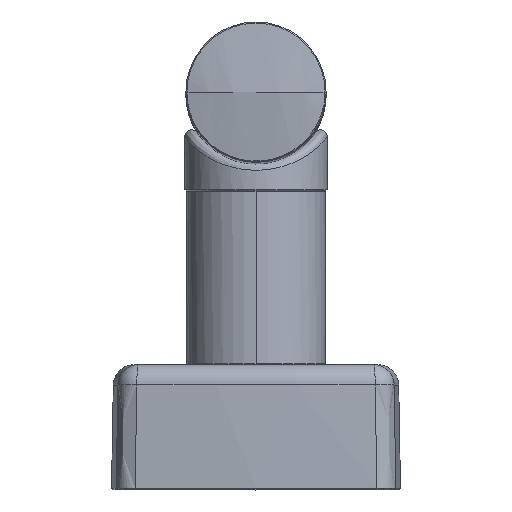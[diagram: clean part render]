
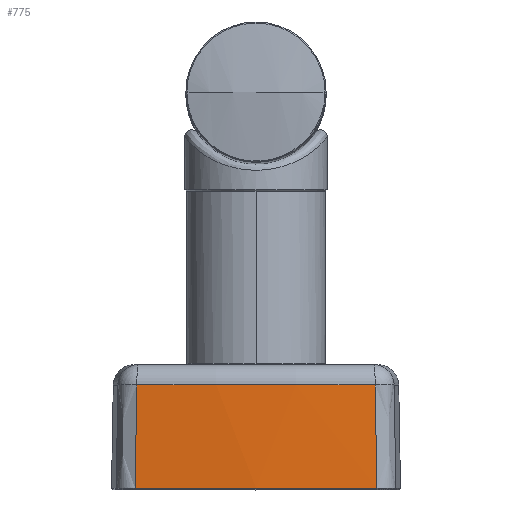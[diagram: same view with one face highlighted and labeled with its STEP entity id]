
A CAD part, top view. The second image highlights one B-rep face of the part: STEP entity #775.
In plain terms, the highlighted conical face has half-angle 1 degrees and reference radius 200 mm.
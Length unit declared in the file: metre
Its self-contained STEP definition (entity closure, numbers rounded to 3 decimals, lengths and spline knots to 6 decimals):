
#775=ADVANCED_FACE('',(#781),#776,.T.);
#776=CONICAL_SURFACE('',#777,0.2,0.017);
#777=AXIS2_PLACEMENT_3D('',#778,#779,#780);
#778=CARTESIAN_POINT('',(0.0,-0.018,-0.1791));
#779=DIRECTION('',(0.0,-1.0,0.0));
#780=DIRECTION('',(0.0,0.0,1.0));
#781=FACE_OUTER_BOUND('',#782,.T.);
#782=EDGE_LOOP('',(#783,#798,#807,#818));
#783=ORIENTED_EDGE('',*,*,#784,.T.);
#784=EDGE_CURVE('',#785,#788,#790,.T.);
#785=VERTEX_POINT('',#786);
#786=CARTESIAN_POINT('',(-0.017167,-0.002948,
  0.019898));
#787=CARTESIAN_POINT('',(-0.017167,-0.002948,
  0.019898));
#788=VERTEX_POINT('',#789);
#789=CARTESIAN_POINT('',(-0.01741,-0.017797,
  0.020137));
#790=B_SPLINE_CURVE_WITH_KNOTS('',3,(#787,#791,#792,#793,#794,#795,#796),
  .UNSPECIFIED.,.F.,.U.,(4,3,4),(0.0,0.00609,
  0.014853),.UNSPECIFIED.);
#791=CARTESIAN_POINT('',(-0.017201,-0.004977,
  0.019931));
#792=CARTESIAN_POINT('',(-0.017234,-0.007006,
  0.019963));
#793=CARTESIAN_POINT('',(-0.017267,-0.009036,
  0.019996));
#794=CARTESIAN_POINT('',(-0.017315,-0.011956,
  0.020043));
#795=CARTESIAN_POINT('',(-0.017362,-0.014876,
  0.02009));
#796=CARTESIAN_POINT('',(-0.01741,-0.017797,
  0.020137));
#797=CARTESIAN_POINT('',(-0.01741,-0.017797,
  0.020137));
#798=ORIENTED_EDGE('',*,*,#799,.T.);
#799=EDGE_CURVE('',#788,#800,#802,.T.);
#800=VERTEX_POINT('',#801);
#801=CARTESIAN_POINT('',(0.01741,-0.017797,
  0.020137));
#802=(B_SPLINE_CURVE(3,(#797,#803,#804,#805),.UNSPECIFIED.,.F.,.U.)B_SPLINE_CURVE_WITH_KNOTS(
  (4,4),(0.0,1.0),.UNSPECIFIED.)BOUNDED_CURVE()CURVE()GEOMETRIC_REPRESENTATION_ITEM(
  )RATIONAL_B_SPLINE_CURVE((1.0,0.997,0.997,1.0)
  )REPRESENTATION_ITEM(''));
#803=CARTESIAN_POINT('',(-0.005818,-0.017797,
  0.02115));
#804=CARTESIAN_POINT('',(0.005818,-0.017797,
  0.02115));
#805=CARTESIAN_POINT('',(0.01741,-0.017797,
  0.020137));
#806=CARTESIAN_POINT('',(0.01741,-0.017797,
  0.020137));
#807=ORIENTED_EDGE('',*,*,#808,.T.);
#808=EDGE_CURVE('',#800,#809,#811,.T.);
#809=VERTEX_POINT('',#810);
#810=CARTESIAN_POINT('',(0.017167,-0.002948,
  0.019898));
#811=B_SPLINE_CURVE_WITH_KNOTS('',3,(#806,#812,#813,#814,#815,#816,#817),
  .UNSPECIFIED.,.F.,.U.,(4,3,4),(0.000204,
  0.008967,0.015056),.UNSPECIFIED.);
#812=CARTESIAN_POINT('',(0.017362,-0.014876,
  0.02009));
#813=CARTESIAN_POINT('',(0.017315,-0.011956,
  0.020043));
#814=CARTESIAN_POINT('',(0.017267,-0.009036,
  0.019996));
#815=CARTESIAN_POINT('',(0.017234,-0.007006,
  0.019963));
#816=CARTESIAN_POINT('',(0.017201,-0.004977,
  0.019931));
#817=CARTESIAN_POINT('',(0.017167,-0.002948,
  0.019898));
#818=ORIENTED_EDGE('',*,*,#819,.T.);
#819=EDGE_CURVE('',#809,#785,#820,.T.);
#820=CIRCLE('',#821,0.199737);
#821=AXIS2_PLACEMENT_3D('',#822,#823,#824);
#822=CARTESIAN_POINT('',(0.0,-0.002948,-0.1791));
#823=DIRECTION('',(0.0,-1.0,0.0));
#824=DIRECTION('',(0.0,0.0,-1.0));
